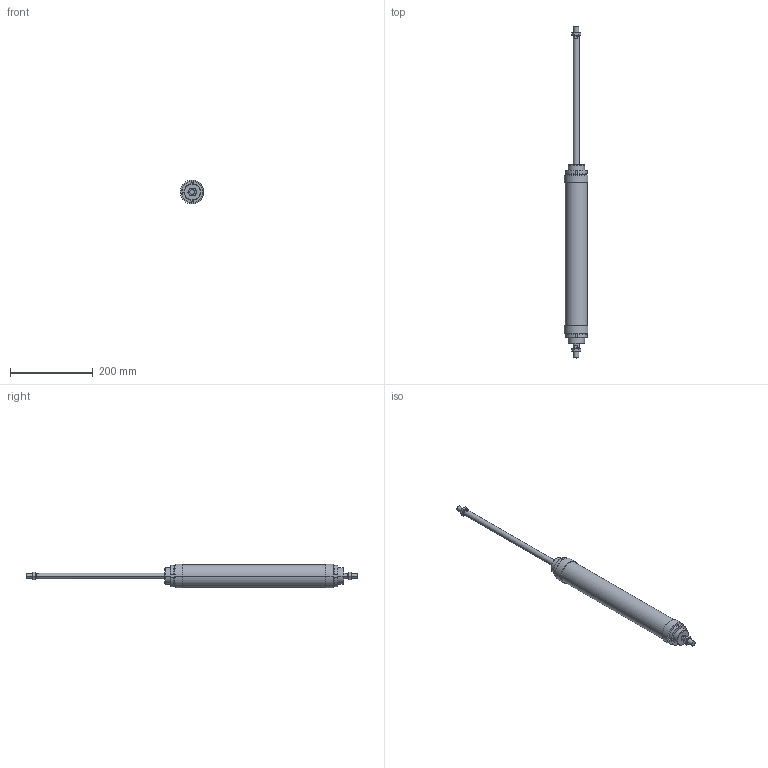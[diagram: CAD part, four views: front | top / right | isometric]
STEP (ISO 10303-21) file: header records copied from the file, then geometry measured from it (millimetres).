
FILE_DESCRIPTION((''),'2;1');
FILE_NAME('I:\DOC-EDP\Lib-3d\1200\CILINDRI\1262\1262_50_0300.stp','2003-04-02T19:16:32',('maffial1'),(''),'Autodesk Inventor (R) 6.0','Autodesk Inventor (R) 6.0','');
FILE_SCHEMA(('AUTOMOTIVE_DESIGN { 1 0 10303 214 1 1 1 1 }'));
Length unit declared in the file: millimetre
Products named in the file (5): 1262_50_0300; S1262_50_300; C1262_50_300; 1200_50_05; 1200_50_06
Assembly tree (6 placements, depth 2):
  1262_50_0300
    S1262_50_300
    C1262_50_300
    1200_50_05  x2
    1200_50_06  x2
Bounding box: 56.6 x 802 x 57.85 mm (x, y, z)
Volume: 1020869 mm3; surface area: 143060 mm2
Topology: 6 solids, 6 shells, 182 faces, 424 edges, 264 vertices
Faces by surface type: plane 66, cone 56, cylinder 30, bspline 30
Entity records: 3737 total; most frequent: CARTESIAN_POINT 969, DIRECTION 572, ORIENTED_EDGE 548, EDGE_CURVE 274, AXIS2_PLACEMENT_3D 227, VERTEX_POINT 172, EDGE_LOOP 136, FACE_OUTER_BOUND 120
